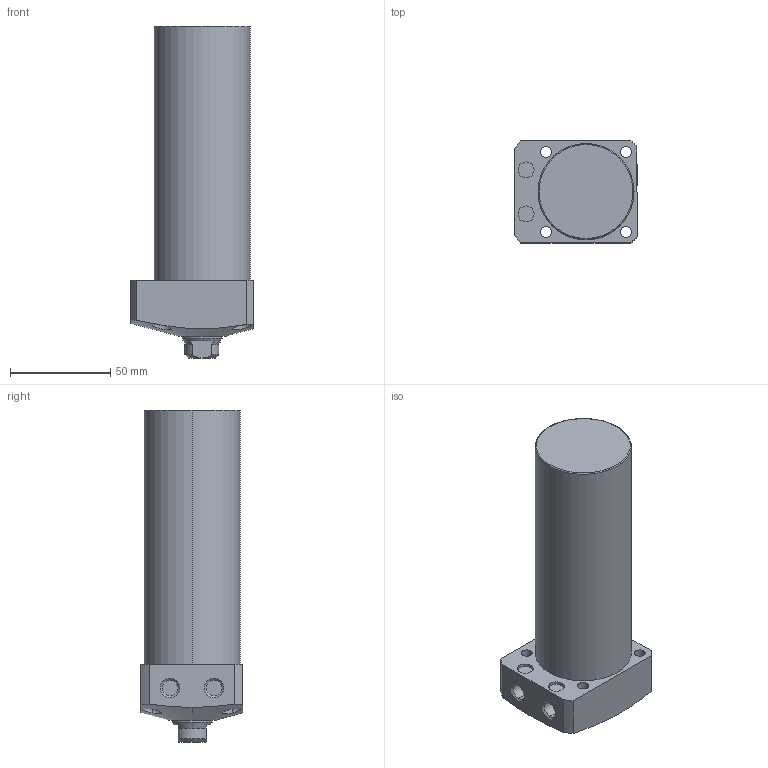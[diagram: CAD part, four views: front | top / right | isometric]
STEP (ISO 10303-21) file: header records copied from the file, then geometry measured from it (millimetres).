
FILE_DESCRIPTION (( 'STEP AP203' ), '1' );
FILE_NAME ('CLL048-CA-0100.STEP', '2017-05-17T10:47:23', ( '' ), ( '' ), 'SwSTEP 2.0', 'SolidWorks 2015', '' );
FILE_SCHEMA (( 'CONFIG_CONTROL_DESIGN' ));
Length unit declared in the file: millimetre
Products named in the file (1): CLL048-CA-0100
Bounding box: 61 x 51 x 166 mm (x, y, z)
Volume: 304014.2 mm3; surface area: 33927.6 mm2
Topology: 1 solids, 1 shells, 74 faces, 170 edges, 107 vertices
Faces by surface type: cylinder 35, plane 22, cone 15, torus 2
Entity records: 2535 total; most frequent: CARTESIAN_POINT 748, DIRECTION 374, ORIENTED_EDGE 336, EDGE_CURVE 168, AXIS2_PLACEMENT_3D 155, VERTEX_POINT 107, EDGE_LOOP 93, CIRCLE 80
